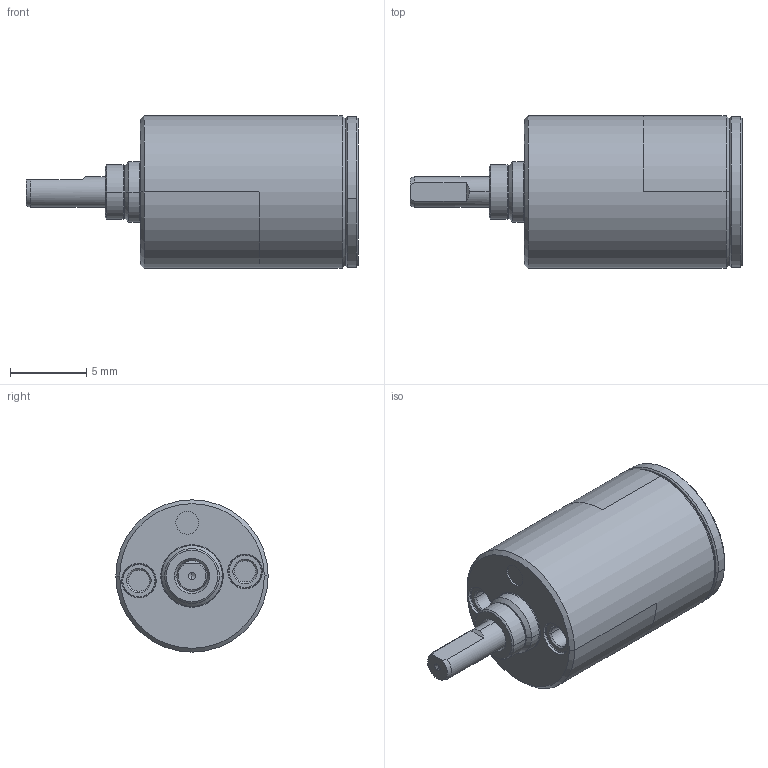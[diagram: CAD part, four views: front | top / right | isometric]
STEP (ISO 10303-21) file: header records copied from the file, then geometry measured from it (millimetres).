
FILE_DESCRIPTION((''),'2;1');
FILE_NAME('110308_GP10K_0_005NM_1ST_GL','2016-10-04T',('mmagvisi'),(''),'CREO PARAMETRIC BY PTC INC, 2016050','CREO PARAMETRIC BY PTC INC, 2016050','');
FILE_SCHEMA(('CONFIG_CONTROL_DESIGN'));
Length unit declared in the file: millimetre
Products named in the file (1): 110308_GP10K_0_005NM_1ST_GL
Bounding box: 21.8 x 10 x 10 mm (x, y, z)
Volume: 1124.9 mm3; surface area: 722.7 mm2
Topology: 1 solids, 1 shells, 77 faces, 167 edges, 103 vertices
Faces by surface type: cone 35, cylinder 20, plane 16, torus 6
Entity records: 2738 total; most frequent: DIRECTION 416, CARTESIAN_POINT 369, ORIENTED_EDGE 330, AXIS2_PLACEMENT_3D 178, PRESENTATION_STYLE_ASSIGNMENT 166, STYLED_ITEM 166, CURVE_STYLE 165, EDGE_CURVE 165
